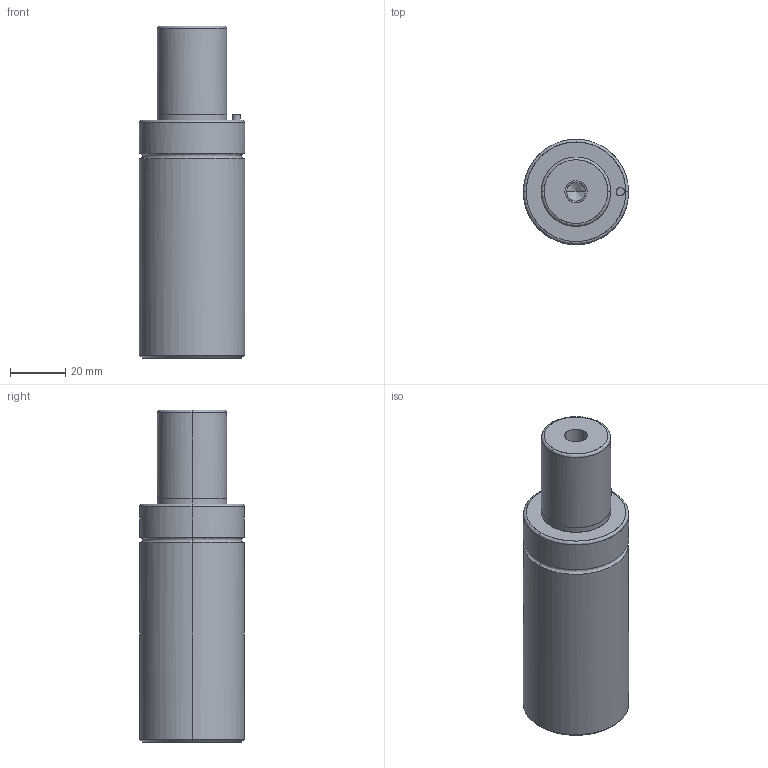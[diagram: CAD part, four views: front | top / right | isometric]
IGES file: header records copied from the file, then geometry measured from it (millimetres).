
Global section: file name: E:\UnigraphicsGraphicData\MISUMI_PRESS-PARTS\IGES\3d_gsm38-32_03918_r00.igs; native system: NX V5.0; preprocessor: UGS NX IGES V5.0; author: MISUMI; date: 20110105.160812; units: millimetre
Bounding box: 38 x 37.94 x 120 mm (x, y, z)
Surface area: 16182.6 mm2 (no closed solid volume)
Topology: 0 solids, 0 shells, 50 faces, 328 edges, 320 vertices
Faces by surface type: bspline 50
